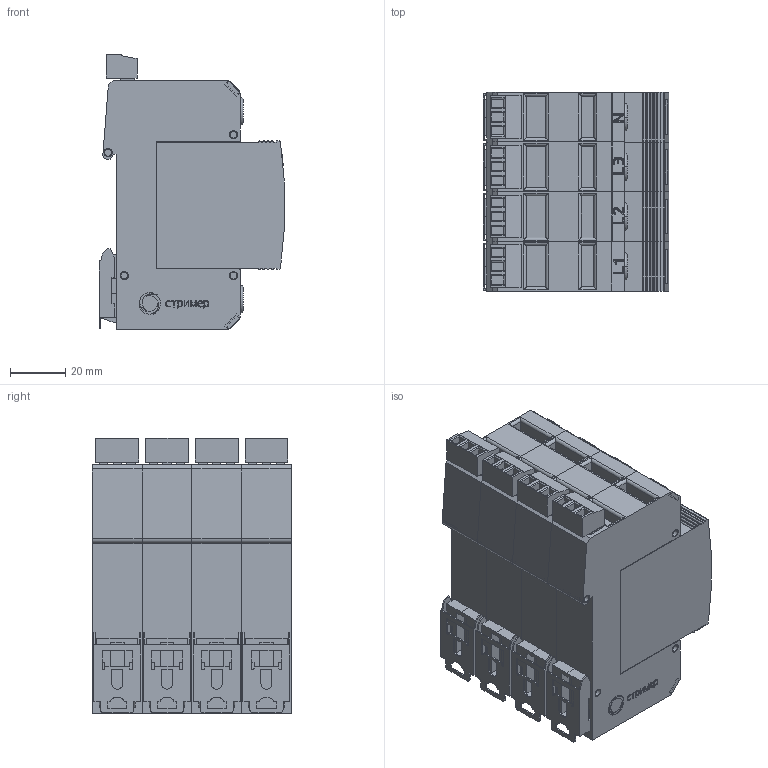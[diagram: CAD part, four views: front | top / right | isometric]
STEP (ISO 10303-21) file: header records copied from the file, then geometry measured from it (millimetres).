
FILE_DESCRIPTION(('TFLEX Exchange Step'),'2;1');
FILE_NAME('X2\041004400442\X0\.114_004.stp', '2022-07-15T15:49:19+03:00',('Pavel Oborin'),('Unknown organisation'),'TFLEX Exchange 2019.2','T-FLEX CAD','Unknown authorisation');
FILE_SCHEMA( ('AUTOMOTIVE_DESIGN { 1 0 10303 214 1 1 1 1 }') );
Length unit declared in the file: millimetre
Products named in the file (25): 0; буква N; Буква L3; Буква L2; Буква L1; Сигнализация:16; Сигнализация:15; Буква PE:12; Буква PE:11; Буква PE:10; Планка:4; ВНЕШНИЙ МОДУЛЬ 18 без ушек:4; Корпус 18 без ушей:48; Корпус 18 без ушей:47; Корпус 18 без ушей:46; Корпус 18 без ушей:45; Корпус 18 без ушей:44; Корпус 18 без ушей:43; Корпус 18 без ушей:42; Корпус 18 без ушей:41; Корпус 18 без ушей:40; Корпус 18 без ушей:39; Корпус 18 без ушей:38; Корпус 18 без ушей:37; Арт.114_004
Assembly tree (89 placements, depth 2):
  Арт.114_004
    0
    буква N
    Буква L3
    Буква L2
    Буква L1
    Сигнализация:16  x4
    Сигнализация:15  x12
    Буква PE:12  x4
    Буква PE:11  x4
    Буква PE:10  x4
    Планка:4  x4
    ВНЕШНИЙ МОДУЛЬ 18 без ушек:4  x4
    Корпус 18 без ушей:48  x4
    Корпус 18 без ушей:47  x4
    Корпус 18 без ушей:46  x4
    Корпус 18 без ушей:45  x4
    Корпус 18 без ушей:44  x4
    Корпус 18 без ушей:43  x4
    Корпус 18 без ушей:42  x4
    Корпус 18 без ушей:41  x4
    Корпус 18 без ушей:40  x4
    Корпус 18 без ушей:39  x4
    Корпус 18 без ушей:38  x4
    Корпус 18 без ушей:37  x4
Bounding box: 66.98 x 72.1 x 99.68 mm (x, y, z)
Volume: 351016.1 mm3; surface area: 102666 mm2
Topology: 139 solids, 139 shells, 2470 faces, 5970 edges, 3862 vertices
Faces by surface type: plane 1524, cylinder 606, bspline 300, torus 28, cone 12
Full cylindrical faces by diameter (mm): 1.6 x12, 3 x12
Entity records: 39368 total; most frequent: CARTESIAN_POINT 20049, ORIENTED_EDGE 3918, DIRECTION 3570, EDGE_CURVE 1959, VECTOR 1342, LINE 1342, VERTEX_POINT 1253, AXIS2_PLACEMENT_3D 1114
